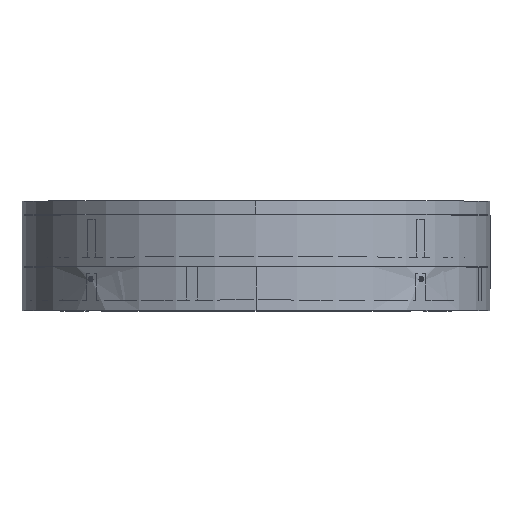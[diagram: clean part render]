
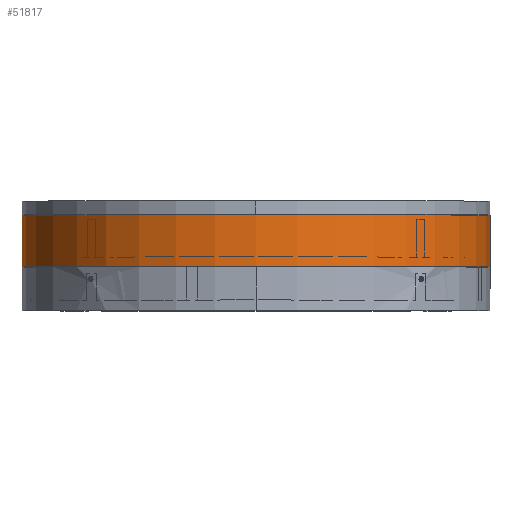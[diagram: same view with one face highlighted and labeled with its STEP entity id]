
A CAD part, top view. The second image highlights one B-rep face of the part: STEP entity #51817.
In plain terms, the highlighted cylindrical face has radius 250 mm (diameter 500 mm), a partial arc.
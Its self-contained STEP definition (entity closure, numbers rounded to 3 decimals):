
#2305 = LINE ( 'NONE', #59814, #35529 ) ;
#3544 = VERTEX_POINT ( 'NONE', #61016 ) ;
#5597 = CARTESIAN_POINT ( 'NONE',  ( 0., 5., -250. ) ) ;
#6057 = CARTESIAN_POINT ( 'NONE',  ( 0., -50., 250. ) ) ;
#8114 = AXIS2_PLACEMENT_3D ( 'NONE', #67832, #38697, #44667 ) ;
#13732 = ORIENTED_EDGE ( 'NONE', *, *, #16085, .F. ) ;
#16085 = EDGE_CURVE ( 'NONE', #39080, #29748, #20275, .T. ) ;
#17424 = DIRECTION ( 'NONE',  ( 0., 0., -1. ) ) ;
#20275 = CIRCLE ( 'NONE', #29849, 250. ) ;
#25137 = DIRECTION ( 'NONE',  ( 0., -1., 0. ) ) ;
#27000 = CARTESIAN_POINT ( 'NONE',  ( 0., 5., 0. ) ) ;
#29748 = VERTEX_POINT ( 'NONE', #57321 ) ;
#29849 = AXIS2_PLACEMENT_3D ( 'NONE', #27000, #71862, #32976 ) ;
#30469 = AXIS2_PLACEMENT_3D ( 'NONE', #36149, #30552, #17424 ) ;
#30552 = DIRECTION ( 'NONE',  ( 0., -1., 0. ) ) ;
#32152 = CARTESIAN_POINT ( 'NONE',  ( 0., 5., -250. ) ) ;
#32976 = DIRECTION ( 'NONE',  ( 0., 0., 1. ) ) ;
#35417 = EDGE_LOOP ( 'NONE', ( #69499, #13732, #46525, #35740 ) ) ;
#35529 = VECTOR ( 'NONE', #25137, 1000. ) ;
#35740 = ORIENTED_EDGE ( 'NONE', *, *, #54722, .F. ) ;
#36149 = CARTESIAN_POINT ( 'NONE',  ( 0., -50., 0. ) ) ;
#36972 = DIRECTION ( 'NONE',  ( 0., -1., 0. ) ) ;
#38697 = DIRECTION ( 'NONE',  ( 0., -1., 0. ) ) ;
#39080 = VERTEX_POINT ( 'NONE', #5597 ) ;
#44667 = DIRECTION ( 'NONE',  ( 0., 0., -1. ) ) ;
#46525 = ORIENTED_EDGE ( 'NONE', *, *, #68417, .T. ) ;
#47130 = CIRCLE ( 'NONE', #30469, 250. ) ;
#51389 = EDGE_CURVE ( 'NONE', #29748, #55306, #2305, .T. ) ;
#51817 = ADVANCED_FACE ( 'NONE', ( #62591 ), #68551, .T. ) ;
#54722 = EDGE_CURVE ( 'NONE', #55306, #3544, #47130, .T. ) ;
#55306 = VERTEX_POINT ( 'NONE', #6057 ) ;
#57321 = CARTESIAN_POINT ( 'NONE',  ( 0., 5., 250. ) ) ;
#59814 = CARTESIAN_POINT ( 'NONE',  ( 0., 5., 250. ) ) ;
#61016 = CARTESIAN_POINT ( 'NONE',  ( 0., -50., -250. ) ) ;
#62379 = VECTOR ( 'NONE', #36972, 1000. ) ;
#62591 = FACE_OUTER_BOUND ( 'NONE', #35417, .T. ) ;
#67832 = CARTESIAN_POINT ( 'NONE',  ( 0., 5., 0. ) ) ;
#68417 = EDGE_CURVE ( 'NONE', #39080, #3544, #72470, .T. ) ;
#68551 = CYLINDRICAL_SURFACE ( 'NONE', #8114, 250. ) ;
#69499 = ORIENTED_EDGE ( 'NONE', *, *, #51389, .F. ) ;
#71862 = DIRECTION ( 'NONE',  ( 0., 1., 0. ) ) ;
#72470 = LINE ( 'NONE', #32152, #62379 ) ;
